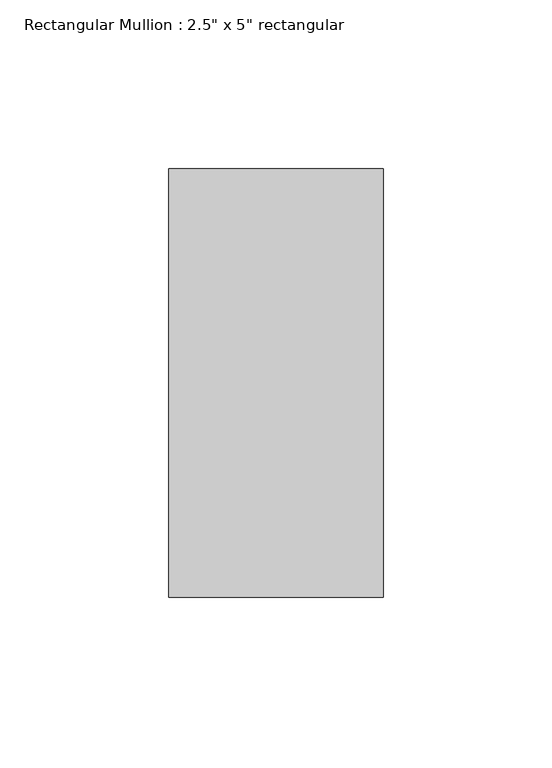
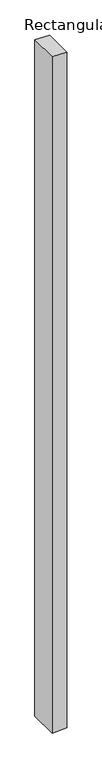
"""IFC4 building model written with IfcOpenShell, lengths in millimetres: member geometry."""

from ifc_helpers import new_model, si_unit, frame, origin, place, context, project, spatial, polyline, outline, extrude, source, transform, mapped, element, save


def member_4b70c0b3(model_context):
    return source(origin(), model_context, "Body", "SweptSolid", [
        extrude(outline(polyline([(0.0, 0.0), (1.3785125, -63.5), (-3050.7406553, -63.5), (-3049.3603478, 0.0), (0.0, 0.0)])), frame((0.0, -63.5, 0.0), z_axis=(0.0, 1.0, 0.0), x_axis=(0.0, 0.0, 1.0)), (0.0, 0.0, 1.0), 127.0),
    ])


if __name__ == "__main__":
    model = new_model("IFC4")
    model_context = context("Model", 3, world=origin())
    ifc_project = project(units=[si_unit("LENGTHUNIT", "METRE", prefix="MILLI")], contexts=[model_context])
    site = spatial("IfcSite", under=ifc_project)
    building = spatial("IfcBuilding", under=site)
    placement = place(None, origin())
    member_shape = member_4b70c0b3(model_context)
    element("IfcMember", 1, ObjectType="Rectangular Mullion : 2.5\" x 5\" rectangular", at=placement, inside=building, context=model_context, shape_type="MappedRepresentation", body=[
        mapped(member_shape, transform((0.0, 0.0, 0.0), x_axis=(1.0, 0.0, 0.0), y_axis=(0.0, 1.0, 0.0), z_axis=(0.0, 0.0, 1.0))),
    ])
    save(model, "model.ifc")
